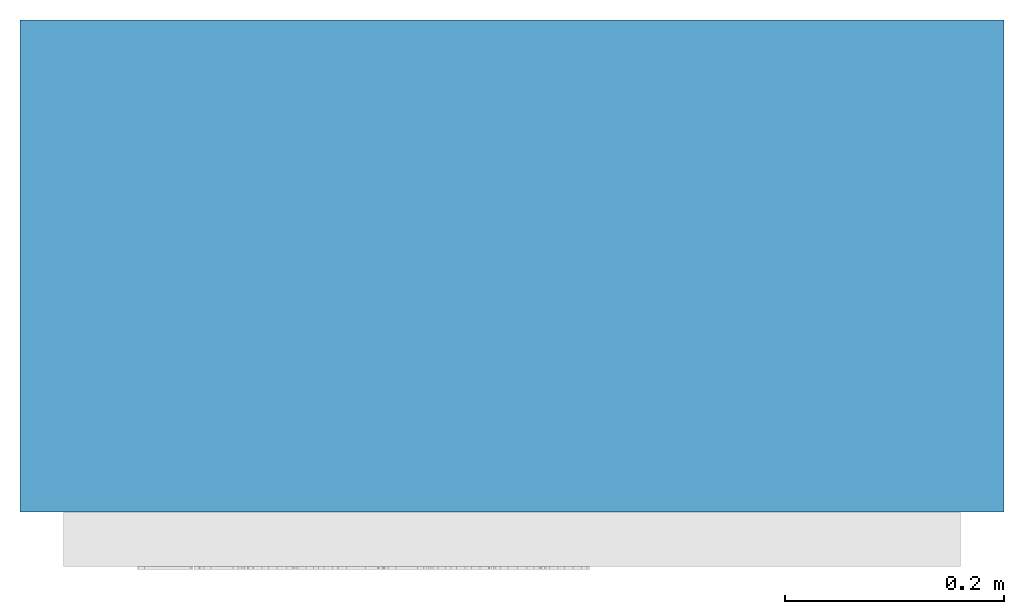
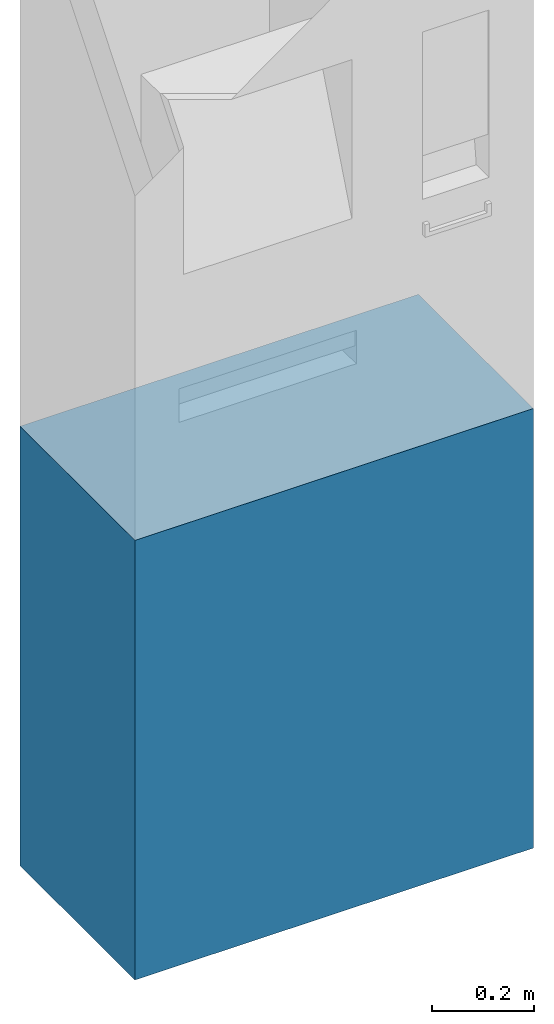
# One storey, incomplete: 1 slab.
"""IFC4 building model written with IfcOpenShell, lengths in metres."""

from ifc_helpers import new_model, entity, si_unit, converted_unit, direction, frame, frame_2d, origin, place, context, subcontext, project, spatial, rectangle, extrude, material, type_object, element, save


model = new_model("IFC4")

# Units and contexts
model_context = context("Model", 3, precision=1e-05, world=origin(), true_north=direction((6.123031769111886e-17, 1.0)))
body_context = subcontext(model_context, "Body", "Model", "MODEL_VIEW")
ifc_project = project(units=[si_unit("LENGTHUNIT", "METRE"), converted_unit("PLANEANGLEUNIT", "DEGREE", entity("IfcPlaneAngleMeasure", 0.017453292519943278), si_unit("PLANEANGLEUNIT", "RADIAN"), dimensions=[0, 0, 0, 0, 0, 0, 0]), si_unit("AREAUNIT", "SQUARE_METRE")], contexts=[model_context])

# Site, building, storey
site_placement = place(None, origin())
site = spatial("IfcSite", under=ifc_project, at=site_placement, Name="Default", CompositionType="ELEMENT")
building_placement = place(site_placement, origin())
building = spatial("IfcBuilding", under=site, at=building_placement, CompositionType="ELEMENT")
storey_placement = place(building_placement, origin())
storey = spatial("IfcBuildingStorey", under=building, at=storey_placement, Name="DB_Bezugshoehe_max_Bahnsteigkante", CompositionType="ELEMENT", Elevation=0.0)

# Slab
ifc_material = material(Name="DB_Ortbeton", Category="DB_Beton")
slab_type = type_object("IfcSlabType", Name="DB_Fahrkartenautomat_Fundament:DB_Fahrkartenautomat_Fundament", PredefinedType="BASESLAB", material=ifc_material)
slab_placement = place(storey_placement, origin())
element("IfcSlab", 1, at=slab_placement, inside=storey, type_object=slab_type, Name="DB_Fahrkartenautomat_Fundament:DB_Fahrkartenautomat_Fundament", ObjectType="DB_Fahrkartenautomat_Fundament:DB_Fahrkartenautomat_Fundament", PredefinedType="BASESLAB", context=body_context, shape_type="SweptSolid", body=[
    extrude(rectangle(XDim=0.9000000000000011, YDim=0.44999999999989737, at=frame_2d((0.0, 1.3877787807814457e-17), x_axis=(1.0, 0.0))), frame((0.0, 0.0, -1.05), z_axis=(0.0, 0.0, 1.0), x_axis=(-1.0, 0.0, 0.0)), (0.0, 0.0, 1.0), 1.05),
])

save(model, "model.ifc")
